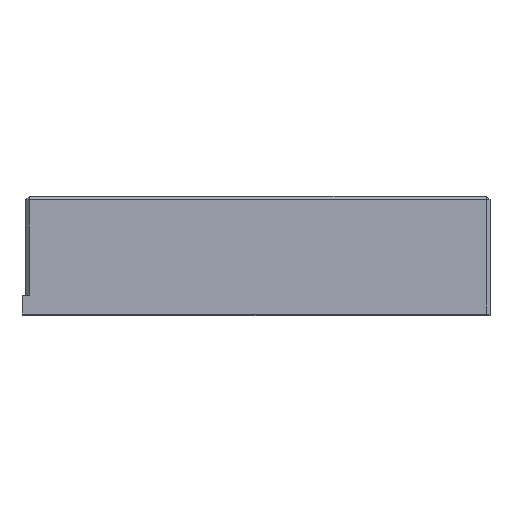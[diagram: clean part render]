
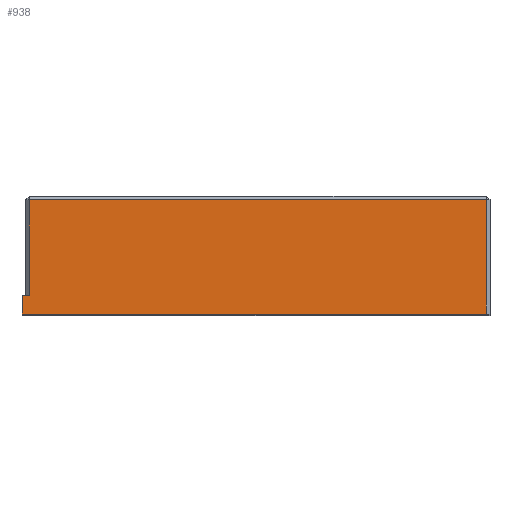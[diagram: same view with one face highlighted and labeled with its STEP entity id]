
A CAD part, top view. The second image highlights one B-rep face of the part: STEP entity #938.
In plain terms, the highlighted planar face has unit normal (0, 0, 1).
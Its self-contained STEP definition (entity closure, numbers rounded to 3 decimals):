
#13 = CARTESIAN_POINT ( 'NONE',  ( -64., 5., 38.5 ) ) ;
#118 = EDGE_CURVE ( 'NONE', #2513, #2534, #1121, .T. ) ;
#165 = VECTOR ( 'NONE', #2739, 1000. ) ;
#238 = ORIENTED_EDGE ( 'NONE', *, *, #118, .T. ) ;
#254 = VERTEX_POINT ( 'NONE', #520 ) ;
#257 = CARTESIAN_POINT ( 'NONE',  ( -62., 31., 38.5 ) ) ;
#326 = EDGE_CURVE ( 'NONE', #1053, #1739, #1616, .T. ) ;
#380 = EDGE_LOOP ( 'NONE', ( #813, #2212, #238, #1943, #2075, #496 ) ) ;
#426 = VECTOR ( 'NONE', #1126, 1000. ) ;
#440 = CARTESIAN_POINT ( 'NONE',  ( -63., 0., 38.5 ) ) ;
#496 = ORIENTED_EDGE ( 'NONE', *, *, #2099, .F. ) ;
#520 = CARTESIAN_POINT ( 'NONE',  ( -64., 0., 38.5 ) ) ;
#547 = CARTESIAN_POINT ( 'NONE',  ( -63., 46., 38.5 ) ) ;
#590 = CARTESIAN_POINT ( 'NONE',  ( -62., 5., 38.5 ) ) ;
#617 = DIRECTION ( 'NONE',  ( -1., 0., 0. ) ) ;
#665 = VERTEX_POINT ( 'NONE', #1498 ) ;
#811 = PLANE ( 'NONE',  #830 ) ;
#813 = ORIENTED_EDGE ( 'NONE', *, *, #2109, .F. ) ;
#830 = AXIS2_PLACEMENT_3D ( 'NONE', #547, #989, #617 ) ;
#893 = VECTOR ( 'NONE', #937, 1000. ) ;
#905 = EDGE_CURVE ( 'NONE', #2534, #1739, #2749, .T. ) ;
#937 = DIRECTION ( 'NONE',  ( 1., 0., 0. ) ) ;
#938 = ADVANCED_FACE ( 'NONE', ( #1831 ), #811, .F. ) ;
#989 = DIRECTION ( 'NONE',  ( 0., 0., -1. ) ) ;
#1024 = LINE ( 'NONE', #1885, #165 ) ;
#1053 = VERTEX_POINT ( 'NONE', #13 ) ;
#1104 = LINE ( 'NONE', #2392, #426 ) ;
#1121 = LINE ( 'NONE', #2787, #2189 ) ;
#1123 = CARTESIAN_POINT ( 'NONE',  ( 62., 31., 38.5 ) ) ;
#1126 = DIRECTION ( 'NONE',  ( 0., 1., 0. ) ) ;
#1172 = CARTESIAN_POINT ( 'NONE',  ( -63., 5., 38.5 ) ) ;
#1498 = CARTESIAN_POINT ( 'NONE',  ( 62., 0., 38.5 ) ) ;
#1616 = LINE ( 'NONE', #1172, #893 ) ;
#1644 = VECTOR ( 'NONE', #2160, 1000. ) ;
#1739 = VERTEX_POINT ( 'NONE', #590 ) ;
#1815 = DIRECTION ( 'NONE',  ( 0., -1., 0. ) ) ;
#1831 = FACE_OUTER_BOUND ( 'NONE', #380, .T. ) ;
#1842 = CARTESIAN_POINT ( 'NONE',  ( -62., 46., 38.5 ) ) ;
#1866 = VECTOR ( 'NONE', #1815, 1000. ) ;
#1885 = CARTESIAN_POINT ( 'NONE',  ( -64., 46., 38.5 ) ) ;
#1943 = ORIENTED_EDGE ( 'NONE', *, *, #905, .T. ) ;
#1968 = LINE ( 'NONE', #440, #1644 ) ;
#2075 = ORIENTED_EDGE ( 'NONE', *, *, #326, .F. ) ;
#2099 = EDGE_CURVE ( 'NONE', #254, #1053, #1024, .T. ) ;
#2109 = EDGE_CURVE ( 'NONE', #665, #254, #1968, .T. ) ;
#2160 = DIRECTION ( 'NONE',  ( -1., 0., 0. ) ) ;
#2179 = EDGE_CURVE ( 'NONE', #665, #2513, #1104, .T. ) ;
#2189 = VECTOR ( 'NONE', #2373, 1000. ) ;
#2212 = ORIENTED_EDGE ( 'NONE', *, *, #2179, .T. ) ;
#2373 = DIRECTION ( 'NONE',  ( -1., 0., 0. ) ) ;
#2392 = CARTESIAN_POINT ( 'NONE',  ( 62., 46., 38.5 ) ) ;
#2513 = VERTEX_POINT ( 'NONE', #1123 ) ;
#2534 = VERTEX_POINT ( 'NONE', #257 ) ;
#2739 = DIRECTION ( 'NONE',  ( 0., 1., 0. ) ) ;
#2749 = LINE ( 'NONE', #1842, #1866 ) ;
#2787 = CARTESIAN_POINT ( 'NONE',  ( -63., 31., 38.5 ) ) ;
